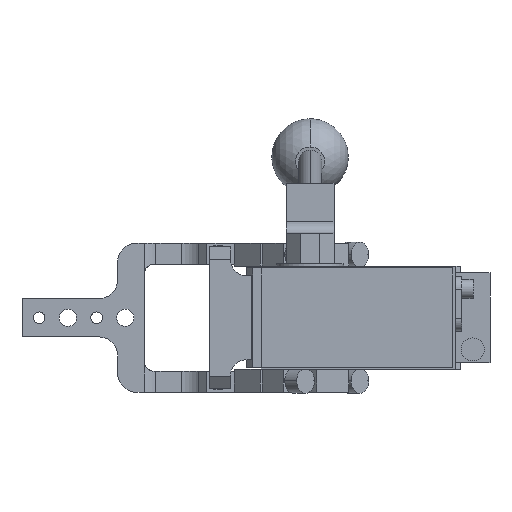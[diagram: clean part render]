
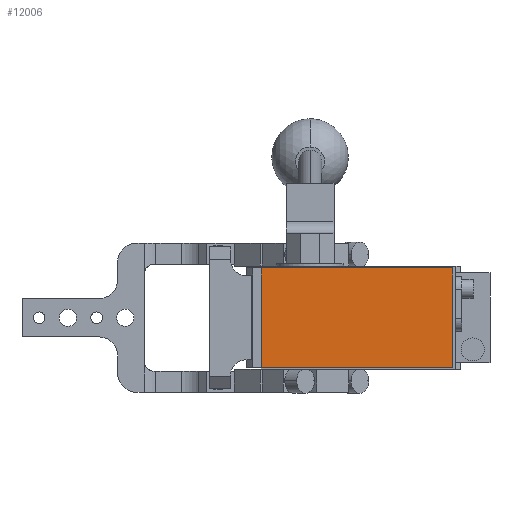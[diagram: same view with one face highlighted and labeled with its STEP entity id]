
A CAD part, front view. The second image highlights one B-rep face of the part: STEP entity #12006.
In plain terms, the highlighted planar face has unit normal (0, -1, 0).
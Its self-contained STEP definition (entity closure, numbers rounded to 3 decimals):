
#226 = EDGE_CURVE ( 'NONE', #11143, #2574, #2539, .T. ) ;
#379 = DIRECTION ( 'NONE',  ( 0., 0., -1. ) ) ;
#968 = FACE_OUTER_BOUND ( 'NONE', #5418, .T. ) ;
#1961 = PLANE ( 'NONE',  #10186 ) ;
#2109 = ORIENTED_EDGE ( 'NONE', *, *, #226, .T. ) ;
#2219 = DIRECTION ( 'NONE',  ( -1., 0., 0. ) ) ;
#2539 = LINE ( 'NONE', #11436, #11192 ) ;
#2574 = VERTEX_POINT ( 'NONE', #9780 ) ;
#2743 = CARTESIAN_POINT ( 'NONE',  ( -19., -286.5, 26. ) ) ;
#3271 = DIRECTION ( 'NONE',  ( 0., -1., 0. ) ) ;
#3994 = LINE ( 'NONE', #13876, #7751 ) ;
#4840 = LINE ( 'NONE', #14953, #6371 ) ;
#5418 = EDGE_LOOP ( 'NONE', ( #10078, #2109, #6951, #5764 ) ) ;
#5646 = CARTESIAN_POINT ( 'NONE',  ( 0., -286.5, 0. ) ) ;
#5764 = ORIENTED_EDGE ( 'NONE', *, *, #12758, .T. ) ;
#6307 = CARTESIAN_POINT ( 'NONE',  ( 81., -286.5, 26. ) ) ;
#6371 = VECTOR ( 'NONE', #2219, 1000. ) ;
#6827 = CARTESIAN_POINT ( 'NONE',  ( -19., -286.5, -26. ) ) ;
#6951 = ORIENTED_EDGE ( 'NONE', *, *, #9752, .T. ) ;
#7751 = VECTOR ( 'NONE', #11262, 1000. ) ;
#9752 = EDGE_CURVE ( 'NONE', #2574, #16079, #3994, .T. ) ;
#9780 = CARTESIAN_POINT ( 'NONE',  ( 81., -286.5, -26. ) ) ;
#10078 = ORIENTED_EDGE ( 'NONE', *, *, #11022, .T. ) ;
#10186 = AXIS2_PLACEMENT_3D ( 'NONE', #5646, #3271, #10619 ) ;
#10608 = VECTOR ( 'NONE', #379, 1000. ) ;
#10619 = DIRECTION ( 'NONE',  ( 0., 0., -1. ) ) ;
#10621 = CARTESIAN_POINT ( 'NONE',  ( -19., -286.5, 26. ) ) ;
#11022 = EDGE_CURVE ( 'NONE', #12971, #11143, #15169, .T. ) ;
#11143 = VERTEX_POINT ( 'NONE', #6827 ) ;
#11192 = VECTOR ( 'NONE', #15205, 1000. ) ;
#11262 = DIRECTION ( 'NONE',  ( 0., 0., 1. ) ) ;
#11436 = CARTESIAN_POINT ( 'NONE',  ( -19., -286.5, -26. ) ) ;
#12006 = ADVANCED_FACE ( 'NONE', ( #968 ), #1961, .T. ) ;
#12758 = EDGE_CURVE ( 'NONE', #16079, #12971, #4840, .T. ) ;
#12971 = VERTEX_POINT ( 'NONE', #10621 ) ;
#13876 = CARTESIAN_POINT ( 'NONE',  ( 81., -286.5, 26. ) ) ;
#14953 = CARTESIAN_POINT ( 'NONE',  ( -19., -286.5, 26. ) ) ;
#15169 = LINE ( 'NONE', #2743, #10608 ) ;
#15205 = DIRECTION ( 'NONE',  ( 1., 0., 0. ) ) ;
#16079 = VERTEX_POINT ( 'NONE', #6307 ) ;
